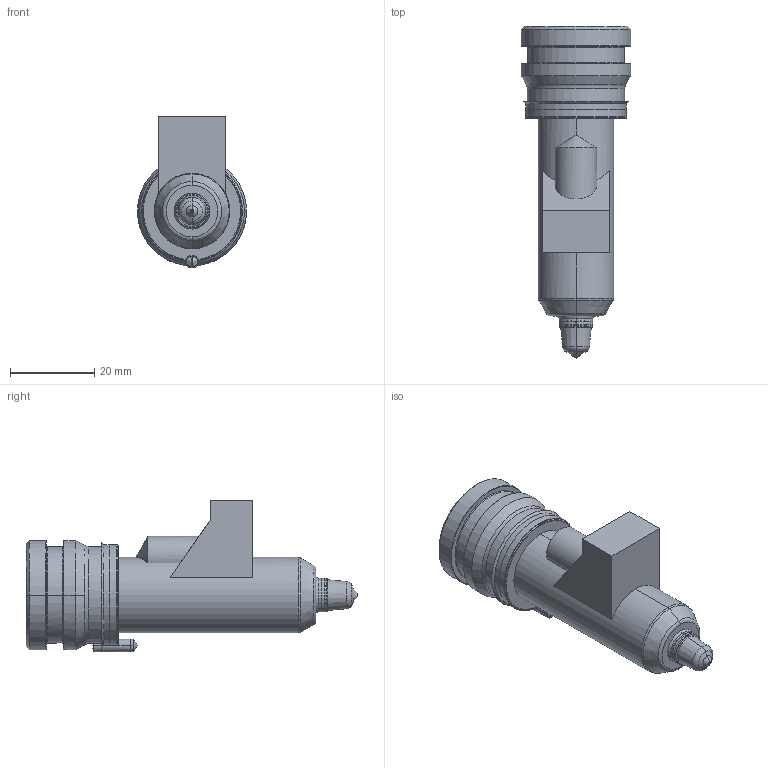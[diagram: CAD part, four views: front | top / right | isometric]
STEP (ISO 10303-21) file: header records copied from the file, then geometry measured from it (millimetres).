
FILE_DESCRIPTION((''),'2;1');
FILE_NAME('TH18061-M-1B50-PK-JG','2023-12-14T',('umhib'),('Thermoplay S.p.A.'),'PRO/ENGINEER BY PARAMETRIC TECHNOLOGY CORPORATION, 2017170','PRO/ENGINEER BY PARAMETRIC TECHNOLOGY CORPORATION, 2017170','');
FILE_SCHEMA(('CONFIG_CONTROL_DESIGN'));
Length unit declared in the file: millimetre
Products named in the file (1): TH18061-M-1B50-PK-JG
Bounding box: 26 x 79 x 36.1 mm (x, y, z)
Volume: 17111.9 mm3; surface area: 13555 mm2
Topology: 1 solids, 2 shells, 389 faces, 993 edges, 609 vertices
Faces by surface type: cylinder 149, plane 87, cone 62, torus 56, bspline 22, sphere 11, extrusion 2
Entity records: 16891 total; most frequent: CARTESIAN_POINT 5248, DIRECTION 1992, ORIENTED_EDGE 1960, EDGE_CURVE 982, AXIS2_PLACEMENT_3D 802, VERTEX_POINT 609, CIRCLE 436, EDGE_LOOP 412
